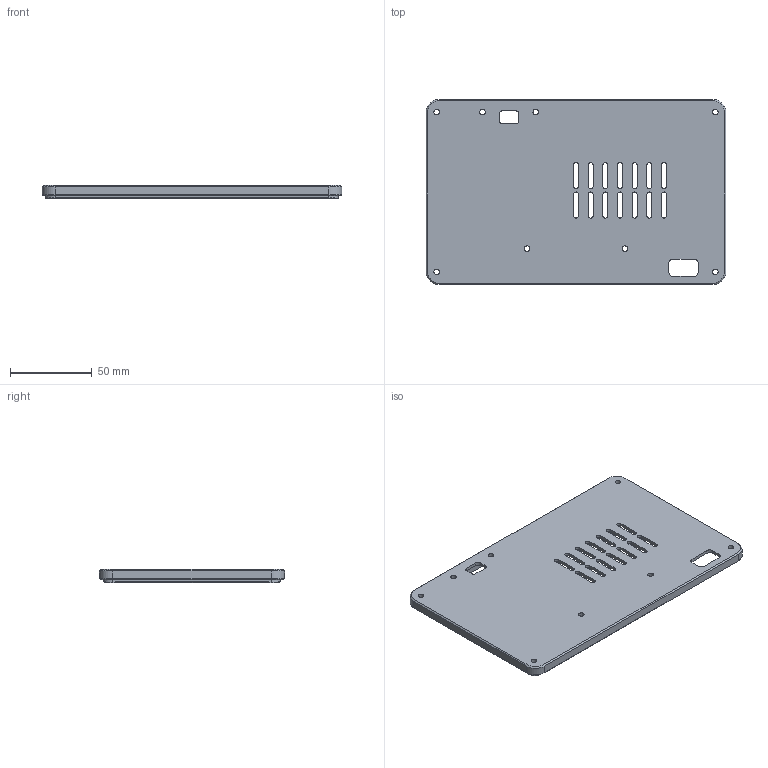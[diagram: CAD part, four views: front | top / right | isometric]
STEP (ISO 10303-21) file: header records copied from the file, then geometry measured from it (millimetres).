
FILE_DESCRIPTION(('Open CASCADE Model'),'2;1');
FILE_NAME('Open CASCADE Shape Model','2026-11-23T07:25:46',('Author'),( 'Open CASCADE'),'Open CASCADE STEP processor 7.9','Open CASCADE 7.9' ,'Unknown');
FILE_SCHEMA(('AUTOMOTIVE_DESIGN { 1 0 10303 214 1 1 1 1 }'));
Length unit declared in the file: millimetre
Products named in the file (1): Open CASCADE STEP translator 7.9 2
Bounding box: 184 x 113.5 x 8 mm (x, y, z)
Volume: 52210.6 mm3; surface area: 48774.3 mm2
Topology: 1 solids, 1 shells, 180 faces, 490 edges, 320 vertices
Faces by surface type: plane 96, cylinder 68, cone 16
Full cylindrical faces by diameter (mm): 3.4 x8, 8 x2
Entity records: 12202 total; most frequent: CARTESIAN_POINT 2809, DIRECTION 1628, ORIENTED_EDGE 980, PCURVE 980, DEFINITIONAL_REPRESENTATION 980, LINE 880, VECTOR 880, EDGE_CURVE 490
